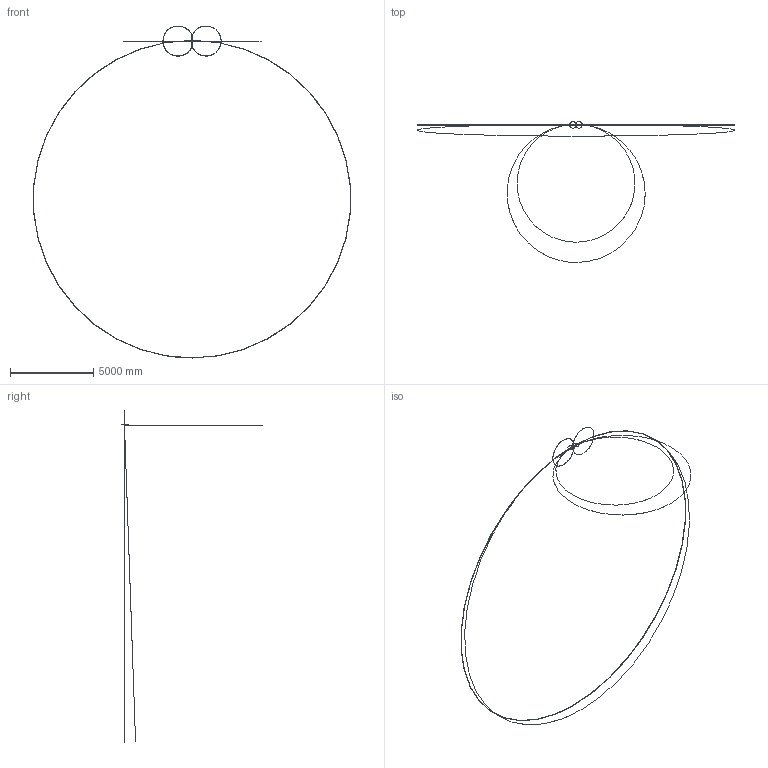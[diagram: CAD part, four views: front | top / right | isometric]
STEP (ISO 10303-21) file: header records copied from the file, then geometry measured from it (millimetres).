
FILE_DESCRIPTION((''),'2;1');
FILE_NAME('0000505408_ASM','2019-05-29T',('alwu'),(''),'CREO PARAMETRIC BY PTC INC, 2016380','CREO PARAMETRIC BY PTC INC, 2016380','');
FILE_SCHEMA(('CONFIG_CONTROL_DESIGN'));
Products named in the file (82): 5303737_1_1; 1304077_MOLEX_1_1_2; 1304077_PSA_1_1; 1304077_ASM_1_1_ASM; SEAL_FORM3_1_1_2; 1304088_1_1_2; 20-107-0813-B_1_1; SMA_LOCK_WASHER_1_1; SMA_HEX_NUT_1_1; 1304091_1_1_2; A007209S_7_1_1_2; 072-S-318_2_1_1_2; 072-L-318_2_1_1_2; 007209P_HS_2_1_1_2; DR-SHELL-S_2_1_1_2; 54-50-12_1_1_1_2; RC_5_1_1_2; TFX_1_1_1_2; D10009S12401N_ASM_35_ASM_1_1_ASM; RJ45_UDE_1_1_2_3_1; RJ45_UDE_1_1_2_3_2; RJ45_UDE_1_1_2_3_3; RJ45_UDE_1_1_2_3_4; RJ45_UDE_1_1_2_3_5; RJ45_UDE_1_1_2_3_6; RJ45_UDE_1_1_2_3_7; RJ45_UDE_1_1_2_3_8; RJ45_UDE_1_1_2_3_9; RJ45_UDE_1_1_2_3_10; RJ45_UDE_1_1_2_3_11; RJ45_UDE_1_1_2_3_12; RJ45_UDE_1_1_2_3_13; RJ45_UDE_1_1_2_3_14; RJ45_UDE_1_1_2_3_15; RJ45_UDE_1_1_2_3_16; RJ45_UDE_1_1_2_3_17; RJ45_UDE_1_1_2_3_18; RJ45_UDE_1_1_2_3_19; RJ45_UDE_1_1_2_3_20; RJ45_UDE_1_1_2_3_21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
Assembly tree (106 placements, depth 5):
  0000505408_ASM
    5303741_ASM_1_1_ASM
      5303737_1_1
      1304077_ASM_1_1_ASM
        1304077_MOLEX_1_1_2
        1304077_PSA_1_1
      SEAL_FORM3_1_1_2
      1304088_1_1_2
      20-107-0813-B_1_1  x3
      SMA_LOCK_WASHER_1_1  x5
      SMA_HEX_NUT_1_1  x5
      1304091_1_1_2
      5303730_ASM_1_1_ASM
        D10009S12401N_ASM_35_ASM_1_1_ASM
          A007209S_7_1_1_2
          072-S-318_2_1_1_2  x4
          072-L-318_2_1_1_2  x5
          007209P_HS_2_1_1_2
          DR-SHELL-S_2_1_1_2
          54-50-12_1_1_1_2  x2
          RC_5_1_1_2  x2
          TFX_1_1_1_2
        RJ45_UDE_1_1_2_3_ASM
          RJ45_UDE_1_1_2_3_1
          RJ45_UDE_1_1_2_3_2
          RJ45_UDE_1_1_2_3_3
          RJ45_UDE_1_1_2_3_4
          RJ45_UDE_1_1_2_3_5
          RJ45_UDE_1_1_2_3_6
          RJ45_UDE_1_1_2_3_7
          RJ45_UDE_1_1_2_3_8
          RJ45_UDE_1_1_2_3_9
          RJ45_UDE_1_1_2_3_10
          RJ45_UDE_1_1_2_3_11
          RJ45_UDE_1_1_2_3_12
          RJ45_UDE_1_1_2_3_13
          RJ45_UDE_1_1_2_3_14
          RJ45_UDE_1_1_2_3_15
          RJ45_UDE_1_1_2_3_16
          RJ45_UDE_1_1_2_3_17
          RJ45_UDE_1_1_2_3_18
          RJ45_UDE_1_1_2_3_19
          RJ45_UDE_1_1_2_3_20
          RJ45_UDE_1_1_2_3_21
          RJ45_UDE_1_1_2_3_22
          RJ45_UDE_1_1_2_3_23
          RJ45_UDE_1_1_2_3_24
          RJ45_UDE_1_1_2_3_25
          RJ45_UDE_1_1_2_3_26
          RJ45_UDE_1_1_2_3_27
          RJ45_UDE_1_1_2_3_28
          RJ45_UDE_1_1_2_3_29
          RJ45_UDE_1_1_2_3_30
          RJ45_UDE_1_1_2_3_31
          RJ45_UDE_1_1_2_3_32
          RJ45_UDE_1_1_2_3_33
          RJ45_UDE_1_1_2_3_34
          RJ45_UDE_1_1_2_3_35
          RJ45_UDE_1_1_2_3_36
          RJ45_UDE_1_1_2_3_37
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Bounding box: 19026.87 x 8465.1 x 19941.66 mm (x, y, z)
Surface area: 1024210.1 mm2 (no closed solid volume)
Topology: 0 solids, 0 shells, 11783 faces, 63038 edges, 62669 vertices
Faces by surface type: bspline 11321, torus 341, sphere 121
Entity records: 809627 total; most frequent: CARTESIAN_POINT 371430, DIRECTION 66302, TRIMMED_CURVE 60592, VECTOR 56332, LINE 56332, DEFINITIONAL_REPRESENTATION 49136, PCURVE 49136, COMPOSITE_CURVE_SEGMENT 49136
